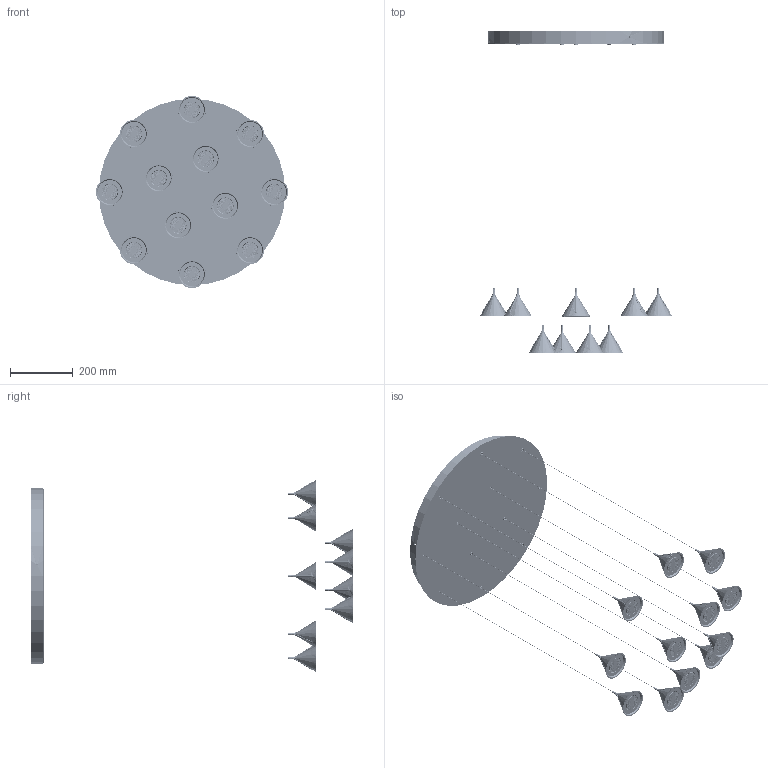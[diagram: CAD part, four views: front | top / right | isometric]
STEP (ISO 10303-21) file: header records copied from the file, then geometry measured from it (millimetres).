
FILE_DESCRIPTION (( 'STEP AP203' ), '1' );
FILE_NAME ('SPJM12T-PER 3D.STEP', '2025-06-30T07:28:21', ( '' ), ( '' ), 'SwSTEP 2.0', 'SolidWorks 2024', '' );
FILE_SCHEMA (( 'CONFIG_CONTROL_DESIGN' ));
Length unit declared in the file: millimetre
Products named in the file (35): PENDJEWEMO32XXXX-PER 3D; CAVOJEWELM02MTY; WSR1TLL01CRCEW38L2; WSCP2E0002-1404-00; WSASS-000000057-00-PER 3D; WSCM2F0027-0100-01; WSCM2A0067-0700-00; WSMCROB10--14-0141_WSMCROB10--14-0141; WSCM2C0181-0100-00; WSM2G1522-FR------; SPJM12T-PER 3D; ASSIEME HOLDER+LENTE LEDLINK; WSMCROB10--19-0141_WSMCROB10--19-0141
Assembly tree (88 placements, depth 4):
  SPJM12T-PER 3D
    WSASS-000000057-00-PER 3D
      WSCM2F0027-0100-01
      WSCM2C0181-0100-00
      WSM2G1522-FR------  x12
      WSMCROB10--14-0141_WSMCROB10--14-0141  x2
      WSMCROB10--19-0141_WSMCROB10--19-0141  x10
    PENDJEWEMO32XXXX-PER 3D
      WSCM2A0067-0700-00
      WSCP2E0002-1404-00
      ASSIEME HOLDER+LENTE LEDLINK
        WSR1TLL01CRCEW38L2
      CAVOJEWELM02MTY
    PENDJEWEMO32XXXX-PER 3D
      WSCM2A0067-0700-00
      WSCP2E0002-1404-00
      ASSIEME HOLDER+LENTE LEDLINK
        WSR1TLL01CRCEW38L2
      CAVOJEWELM02MTY
    PENDJEWEMO32XXXX-PER 3D
      WSCM2A0067-0700-00
      WSCP2E0002-1404-00
      ASSIEME HOLDER+LENTE LEDLINK
        WSR1TLL01CRCEW38L2
      CAVOJEWELM02MTY
    PENDJEWEMO32XXXX-PER 3D
      WSCM2A0067-0700-00
      WSCP2E0002-1404-00
      ASSIEME HOLDER+LENTE LEDLINK
        WSR1TLL01CRCEW38L2
      CAVOJEWELM02MTY
    PENDJEWEMO32XXXX-PER 3D
      WSCM2A0067-0700-00
      WSCP2E0002-1404-00
      ASSIEME HOLDER+LENTE LEDLINK
        WSR1TLL01CRCEW38L2
      CAVOJEWELM02MTY
    PENDJEWEMO32XXXX-PER 3D
      WSCM2A0067-0700-00
      WSCP2E0002-1404-00
      ASSIEME HOLDER+LENTE LEDLINK
        WSR1TLL01CRCEW38L2
      CAVOJEWELM02MTY
    PENDJEWEMO32XXXX-PER 3D
      WSCM2A0067-0700-00
      WSCP2E0002-1404-00
      ASSIEME HOLDER+LENTE LEDLINK
        WSR1TLL01CRCEW38L2
      CAVOJEWELM02MTY
    PENDJEWEMO32XXXX-PER 3D
      WSCM2A0067-0700-00
      WSCP2E0002-1404-00
      ASSIEME HOLDER+LENTE LEDLINK
        WSR1TLL01CRCEW38L2
      CAVOJEWELM02MTY
    PENDJEWEMO32XXXX-PER 3D
      WSCM2A0067-0700-00
      WSCP2E0002-1404-00
      ASSIEME HOLDER+LENTE LEDLINK
        WSR1TLL01CRCEW38L2
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Bounding box: 614.79 x 1030.64 x 614.79 mm (x, y, z)
Volume: 1931734.1 mm3; surface area: 1650269.8 mm2
Topology: 74 solids, 74 shells, 9885 faces, 25196 edges, 14908 vertices
Faces by surface type: cylinder 4644, bspline 2940, plane 1265, cone 864, sphere 120, torus 52
Entity records: 57968 total; most frequent: CARTESIAN_POINT 30390, ORIENTED_EDGE 5200, DIRECTION 3838, EDGE_CURVE 2600, VERTEX_POINT 1612, AXIS2_PLACEMENT_3D 1571, B_SPLINE_CURVE_WITH_KNOTS 1201, EDGE_LOOP 1144
